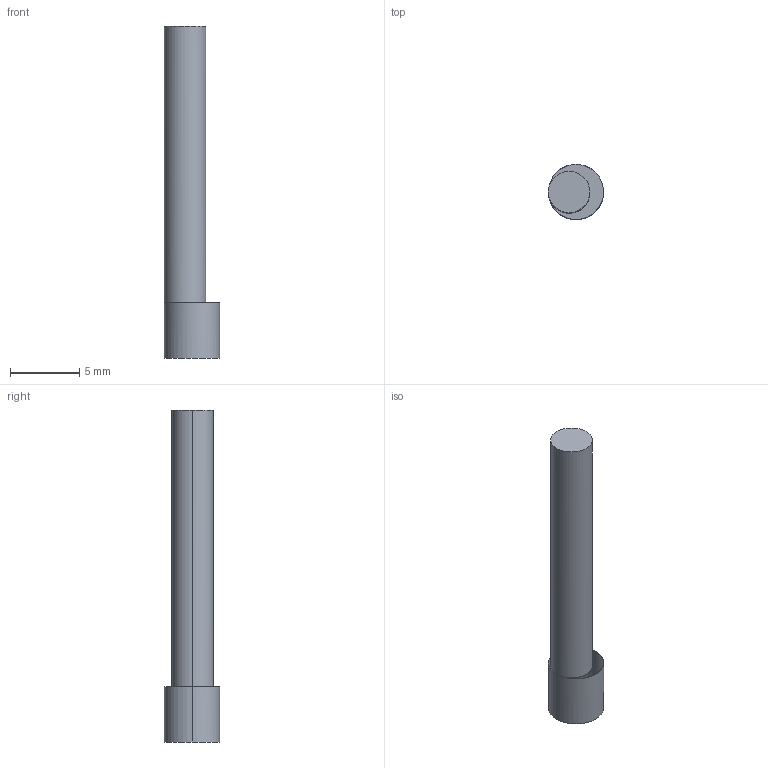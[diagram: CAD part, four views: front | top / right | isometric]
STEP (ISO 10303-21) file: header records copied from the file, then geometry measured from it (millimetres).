
FILE_DESCRIPTION(('CATIA V5 STEP Exchange'),'2;1');
FILE_NAME('D:\CATIA\ATLAS\Atlas_Maarten\atlas_upgrade_maarten\Ass.Module\STP\Excentrique.stp','2010-09-02T14:44:36+00:00',('none'),('none'),'CATIA Version 5 Release 18 SP 4 (IN-10)','CATIA V5 STEP AP203','none');
FILE_SCHEMA(('CONFIG_CONTROL_DESIGN'));
Length unit declared in the file: millimetre
Products named in the file (1): Excentrique
Bounding box: 4 x 4 x 24 mm (x, y, z)
Volume: 191.6 mm3; surface area: 263.9 mm2
Topology: 1 solids, 1 shells, 7 faces, 14 edges, 9 vertices
Faces by surface type: cylinder 4, plane 3
Entity records: 212 total; most frequent: CARTESIAN_POINT 29, ORIENTED_EDGE 28, DIRECTION 24, AXIS2_PLACEMENT_3D 16, EDGE_CURVE 14, CIRCLE 10, VERTEX_POINT 9, ADVANCED_FACE 7
